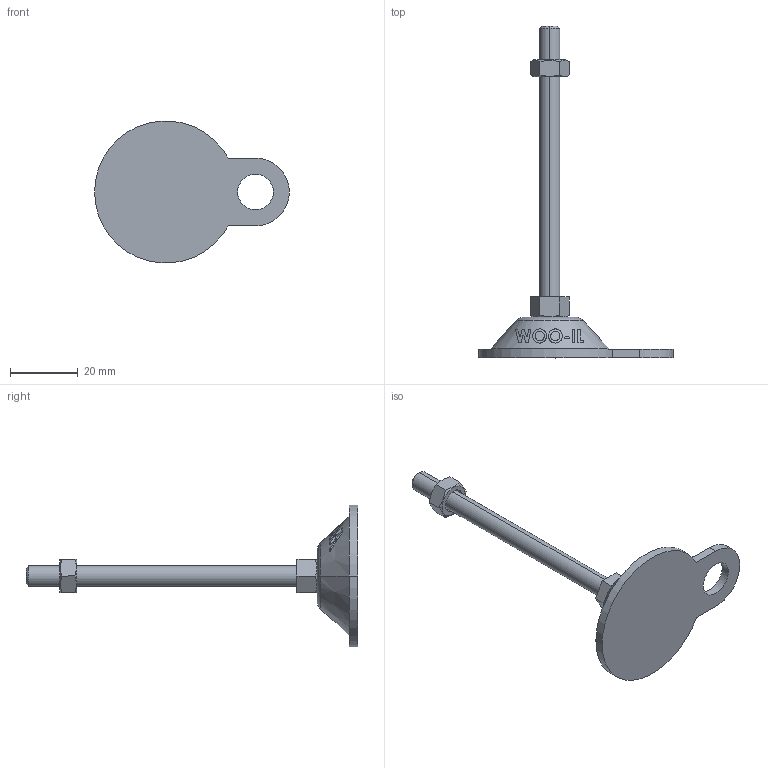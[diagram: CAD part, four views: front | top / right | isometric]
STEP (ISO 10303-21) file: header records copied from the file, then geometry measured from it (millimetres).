
FILE_DESCRIPTION (( 'STEP AP214' ), '1' );
FILE_NAME ('ABL42-M6-80.step', '2021-02-05T04:18:20', ( '' ), ( '' ), 'SwSTEP 2.0', 'SolidWorks 2019', '' );
FILE_SCHEMA (( 'AUTOMOTIVE_DESIGN' ));
Length unit declared in the file: millimetre
Products named in the file (2): ABL42-M6-80
Bounding box: 57.5 x 98 x 41.86 mm (x, y, z)
Volume: 12496.1 mm3; surface area: 6177.1 mm2
Topology: 2 solids, 2 shells, 127 faces, 322 edges, 210 vertices
Faces by surface type: plane 48, cylinder 37, cone 22, bspline 18, torus 2
Entity records: 5440 total; most frequent: CARTESIAN_POINT 2583, ORIENTED_EDGE 644, DIRECTION 466, EDGE_CURVE 322, VERTEX_POINT 210, AXIS2_PLACEMENT_3D 173, EDGE_LOOP 142, B_SPLINE_CURVE_WITH_KNOTS 140
